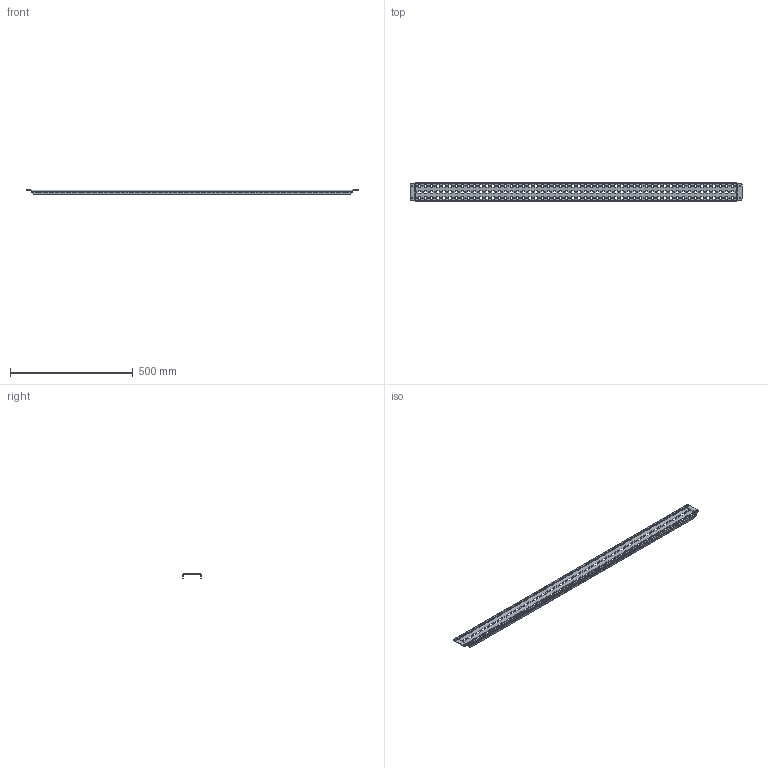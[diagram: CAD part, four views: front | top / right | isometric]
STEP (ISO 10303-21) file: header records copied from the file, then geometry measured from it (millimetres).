
FILE_DESCRIPTION (( 'STEP AP203' ), '1' );
FILE_NAME ('MRD 140.09 Ðåéêà ìîíòàæíàÿ âåðòèêàëüíàÿ.STEP', '2025-05-15T12:33:52', ( '' ), ( '' ), 'SwSTEP 2.0', 'SolidWorks 2019', '' );
FILE_SCHEMA (( 'CONFIG_CONTROL_DESIGN' ));
Products named in the file (1): MRD 140.09 Ðåéêà ìîíòàæíàÿ âåðòèêàëüíàÿ
Bounding box: 1352 x 74 x 19.03 mm (x, y, z)
Volume: 223372.8 mm3; surface area: 256221.3 mm2
Topology: 1 solids, 1 shells, 2480 faces, 7386 edges, 4908 vertices
Faces by surface type: plane 1918, cylinder 562
Entity records: 84683 total; most frequent: CARTESIAN_POINT 14775, ORIENTED_EDGE 14772, DIRECTION 13472, EDGE_CURVE 7386, LINE 6262, VECTOR 6262, VERTEX_POINT 4908, AXIS2_PLACEMENT_3D 3605
